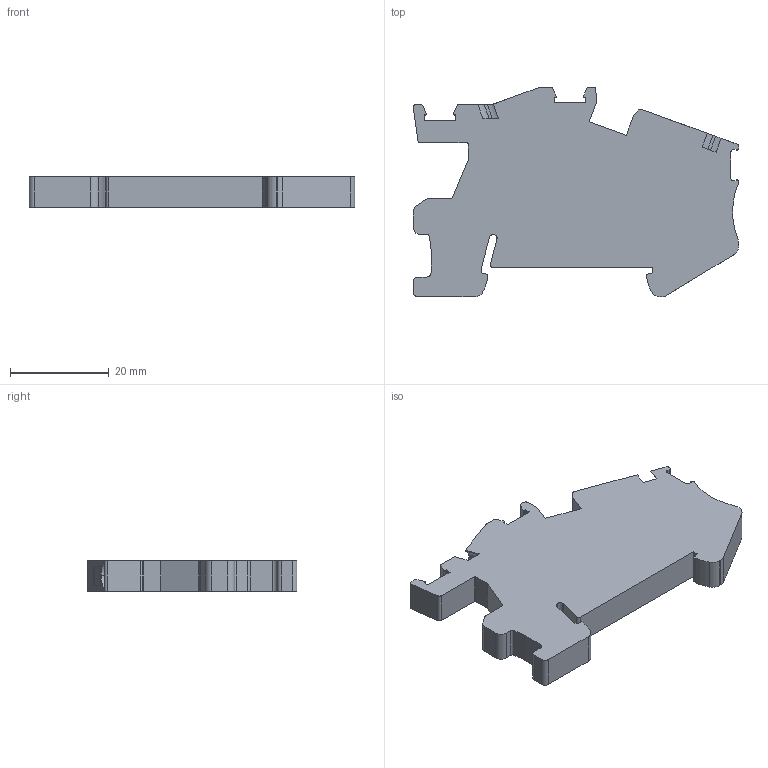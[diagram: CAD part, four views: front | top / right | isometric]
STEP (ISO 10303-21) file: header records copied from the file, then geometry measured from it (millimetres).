
FILE_DESCRIPTION(('SolidDesigner STEP Export'),'2;1');
FILE_NAME('3213970_PTI_4-select.stp','2012-05-10T14:17:33',(''),(''),'CoCreate Modeling STEP processor for AP214 (Solid Model)','CoCreate Modeling 16.00A 16-Aug-2008 (C) Parametric Technology GmbH','');
FILE_SCHEMA(('AUTOMOTIVE_DESIGN { 1 0 10303 214 1 1 1 1 }'));
Length unit declared in the file: millimetre
Products named in the file (2): 3213970_PTI_4-select
Assembly tree (1 placements, depth 2):
  3213970_PTI_4-select
    3213970_PTI_4-select
Bounding box: 65.91 x 42.5 x 6.15 mm (x, y, z)
Volume: 12011.2 mm3; surface area: 5882.3 mm2
Topology: 1 solids, 1 shells, 148 faces, 429 edges, 286 vertices
Faces by surface type: plane 86, cylinder 60, extrusion 1, bspline 1
Entity records: 6115 total; most frequent: CARTESIAN_POINT 1016, ORIENTED_EDGE 858, DIRECTION 768, EDGE_CURVE 429, VECTOR 300, LINE 299, VERTEX_POINT 286, AXIS2_PLACEMENT_3D 234
